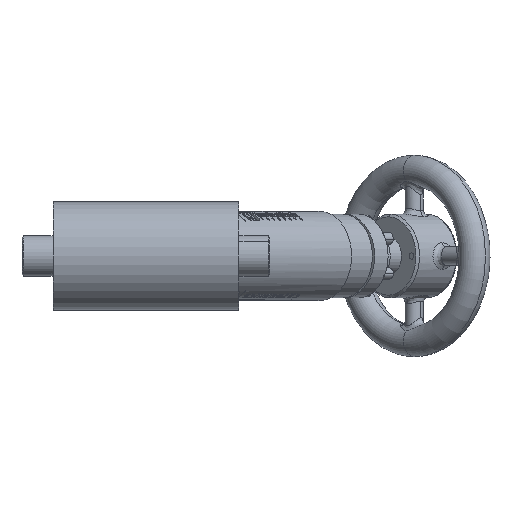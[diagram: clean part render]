
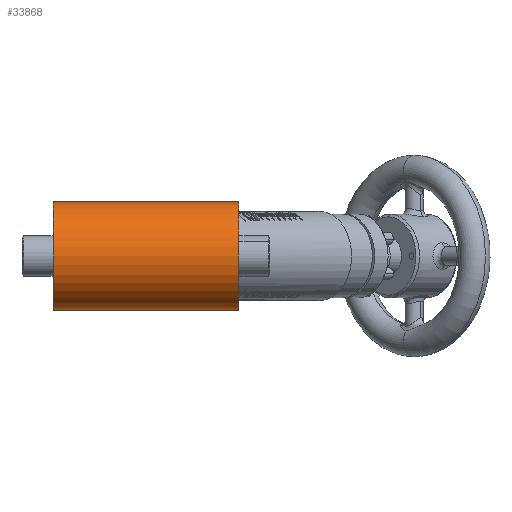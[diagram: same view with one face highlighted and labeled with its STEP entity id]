
A CAD part, front view. The second image highlights one B-rep face of the part: STEP entity #33868.
In plain terms, the highlighted cylindrical face has radius 44.45 mm (diameter 88.9 mm), a partial arc.
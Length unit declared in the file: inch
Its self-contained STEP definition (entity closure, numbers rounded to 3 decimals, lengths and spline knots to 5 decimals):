
#983 = VERTEX_POINT ( 'NONE', #48244 ) ;
#3637 = DIRECTION ( 'NONE',  ( -1., 0., 0. ) ) ;
#4685 = DIRECTION ( 'NONE',  ( -1., 0., 0. ) ) ;
#4866 = VERTEX_POINT ( 'NONE', #21027 ) ;
#4912 = DIRECTION ( 'NONE',  ( 0., 0., 1. ) ) ;
#6719 = AXIS2_PLACEMENT_3D ( 'NONE', #39267, #33683, #21295 ) ;
#8224 = ORIENTED_EDGE ( 'NONE', *, *, #58576, .F. ) ;
#14657 = EDGE_CURVE ( 'NONE', #18306, #983, #60835, .T. ) ;
#15176 = EDGE_LOOP ( 'NONE', ( #78825, #8224, #69646, #40061 ) ) ;
#17912 = AXIS2_PLACEMENT_3D ( 'NONE', #42109, #3637, #61774 ) ;
#18306 = VERTEX_POINT ( 'NONE', #21770 ) ;
#21027 = CARTESIAN_POINT ( 'NONE',  ( 4.44, 0., 1.75 ) ) ;
#21295 = DIRECTION ( 'NONE',  ( 0., 0., 1. ) ) ;
#21770 = CARTESIAN_POINT ( 'NONE',  ( 4.44, 0., -1.75 ) ) ;
#23155 = DIRECTION ( 'NONE',  ( -1., 0., 0. ) ) ;
#23579 = LINE ( 'NONE', #55656, #70340 ) ;
#24144 = DIRECTION ( 'NONE',  ( 1., 0., 0. ) ) ;
#30123 = CARTESIAN_POINT ( 'NONE',  ( 4.44, 0., 0. ) ) ;
#33683 = DIRECTION ( 'NONE',  ( -1., 0., 0. ) ) ;
#33868 = ADVANCED_FACE ( 'NONE', ( #69036 ), #48115, .T. ) ;
#36196 = VECTOR ( 'NONE', #4685, 39.37008 ) ;
#39267 = CARTESIAN_POINT ( 'NONE',  ( -1.56, 0., 0. ) ) ;
#40061 = ORIENTED_EDGE ( 'NONE', *, *, #43073, .F. ) ;
#42109 = CARTESIAN_POINT ( 'NONE',  ( 9.38975, 0., 0. ) ) ;
#43073 = EDGE_CURVE ( 'NONE', #983, #49647, #43604, .T. ) ;
#43604 = CIRCLE ( 'NONE', #6719, 1.75 ) ;
#48115 = CYLINDRICAL_SURFACE ( 'NONE', #17912, 1.75 ) ;
#48244 = CARTESIAN_POINT ( 'NONE',  ( -1.56, 0., -1.75 ) ) ;
#49647 = VERTEX_POINT ( 'NONE', #82527 ) ;
#55656 = CARTESIAN_POINT ( 'NONE',  ( 9.38975, 0., 1.75 ) ) ;
#57253 = CARTESIAN_POINT ( 'NONE',  ( 9.38975, 0., -1.75 ) ) ;
#58576 = EDGE_CURVE ( 'NONE', #4866, #18306, #65582, .T. ) ;
#60835 = LINE ( 'NONE', #57253, #36196 ) ;
#61774 = DIRECTION ( 'NONE',  ( 0., 0., 1. ) ) ;
#65582 = CIRCLE ( 'NONE', #71060, 1.75 ) ;
#69036 = FACE_OUTER_BOUND ( 'NONE', #15176, .T. ) ;
#69646 = ORIENTED_EDGE ( 'NONE', *, *, #75075, .T. ) ;
#70340 = VECTOR ( 'NONE', #23155, 39.37008 ) ;
#71060 = AXIS2_PLACEMENT_3D ( 'NONE', #30123, #24144, #4912 ) ;
#75075 = EDGE_CURVE ( 'NONE', #4866, #49647, #23579, .T. ) ;
#78825 = ORIENTED_EDGE ( 'NONE', *, *, #14657, .F. ) ;
#82527 = CARTESIAN_POINT ( 'NONE',  ( -1.56, 0., 1.75 ) ) ;
